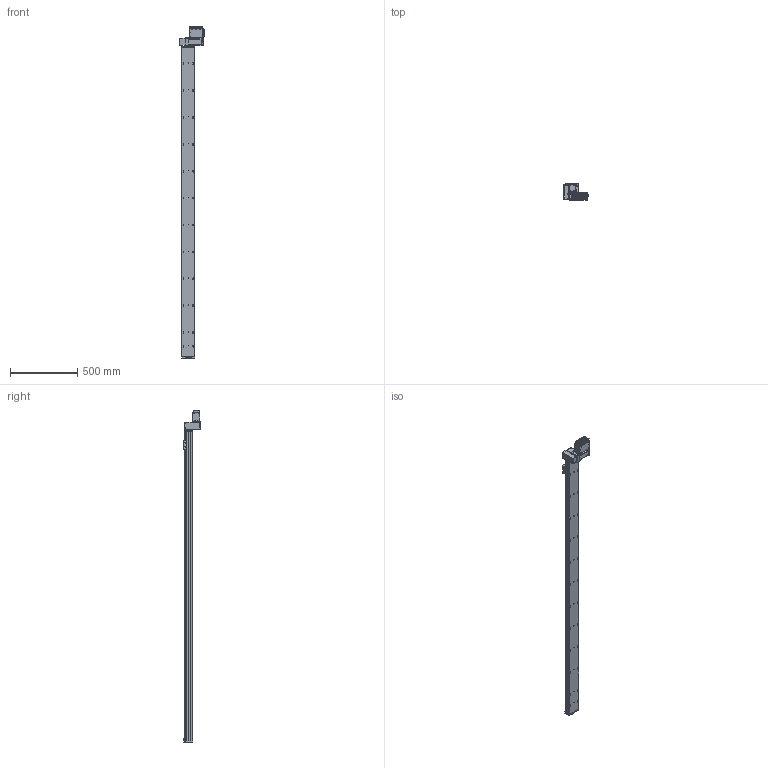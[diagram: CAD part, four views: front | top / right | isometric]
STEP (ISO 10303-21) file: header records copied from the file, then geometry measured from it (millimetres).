
FILE_DESCRIPTION (( 'STEP AP203' ), '1' );
FILE_NAME ('S10 TBN RH S2300.STEP', '2012-06-14T09:37:41', ( 'Conseil Régional Haute-Normandie' ), ( 'Conseil Régional Haute-Normandie' ), 'SwSTEP 2.0', 'SolidWorks 2010', '' );
FILE_SCHEMA (( 'CONFIG_CONTROL_DESIGN' ));
Length unit declared in the file: millimetre
Products named in the file (30): cache t皻e axe_Default; plaque de bout s10_Default; BU41 Carte Alimentation P05_3; Plaque racord_Default; Colonnette_3; Connecteur rond D10 3cts_5; Connecteur rond D12 4cts_5; Sub D 9cts 90_X2_00B_X0__3; Vis TF 3 torkx_1_1; Cvis M5 L30_Default; S10 TBN RH S2300; axe 2300; embout; palette tbn; renvoi LH_Default; cache t皻e_Default; Assem1_7; T_X2_00F4_X0_le contre le moteur_5; BU45 Carte d''axe A11_5; Moteur 60BLDC90A_3; Couvercle_3; T_X2_00F4_X0_le fond_3; Radiateur profil_X2_00E9_X0_ 100x25_3; Colonnette ronde_3; T_X2_00F4_X0_le Arri_X2_00E8_X0_re_5; T_X2_00F4_X0_le lat_X2_00E9_X0_rale_5; vis M5 L12_Default; Vis M5 L16-2_Default_1; vis M5 L5_Default; Vis TF 3 torkx
Assembly tree (69 placements, depth 3):
  S10 TBN RH S2300
    vis M5 L5_Default  x4
    Vis TF 3 torkx  x7
    axe 2300
    palette tbn
    vis M5 L12_Default  x4
    cache t皻e axe_Default
    Cvis M5 L30_Default  x2
    Vis M5 L16-2_Default_1  x4
    embout
    Plaque racord_Default
    Assem1_7
      Moteur 60BLDC90A_3
      Colonnette_3  x2
      T_X2_00F4_X0_le fond_3
      T_X2_00F4_X0_le Arri_X2_00E8_X0_re_5
      Vis TF 3 torkx_1_1  x21
      Colonnette ronde_3
      BU45 Carte d''axe A11_5
      Connecteur rond D10 3cts_5  x2
      Sub D 9cts 90_X2_00B_X0__3
      T_X2_00F4_X0_le contre le moteur_5
      BU41 Carte Alimentation P05_3
      T_X2_00F4_X0_le lat_X2_00E9_X0_rale_5  x2
      Connecteur rond D12 4cts_5
      Radiateur profil_X2_00E9_X0_ 100x25_3
      Couvercle_3
    renvoi LH_Default
    cache t皻e_Default  x2
    plaque de bout s10_Default
Bounding box: 189.8 x 124.75 x 2466.5 mm (x, y, z)
Volume: 12715972.1 mm3; surface area: 1381588.4 mm2
Topology: 68 solids, 68 shells, 2554 faces, 6334 edges, 4098 vertices
Faces by surface type: plane 1220, cylinder 1103, cone 188, bspline 40, torus 3
Entity records: 50480 total; most frequent: CARTESIAN_POINT 9031, DIRECTION 8175, ORIENTED_EDGE 7388, EDGE_CURVE 3694, AXIS2_PLACEMENT_3D 3053, VERTEX_POINT 2414, VECTOR 2069, LINE 2069
